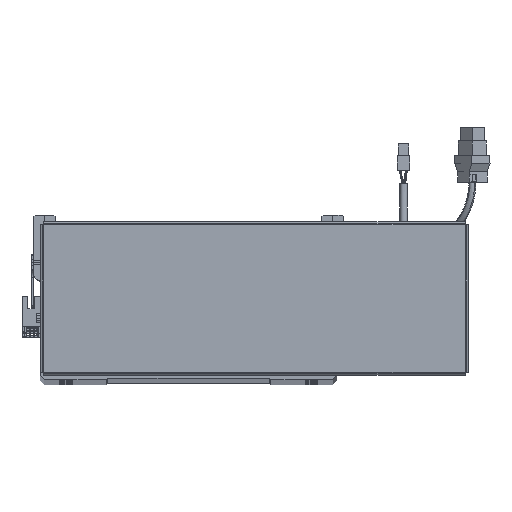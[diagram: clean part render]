
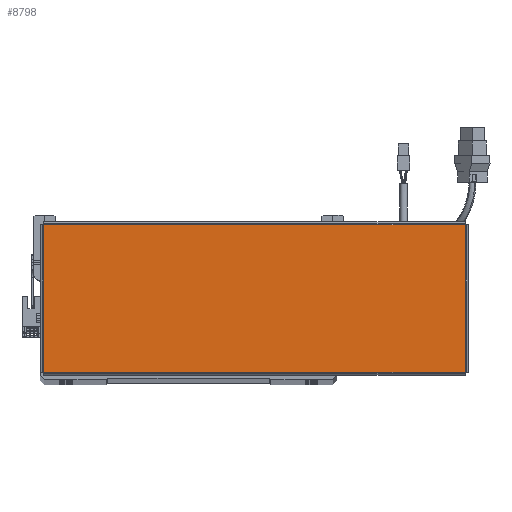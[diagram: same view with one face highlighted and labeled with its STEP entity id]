
A CAD part, top view. The second image highlights one B-rep face of the part: STEP entity #8798.
In plain terms, the highlighted planar face has unit normal (0, 0, 1).
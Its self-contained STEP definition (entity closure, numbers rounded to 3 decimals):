
#2911 = DIRECTION ( 'NONE',  ( 0., 0., 1. ) ) ;
#3141 = EDGE_CURVE ( 'NONE', #38547, #18858, #8806, .T. ) ;
#3435 = DIRECTION ( 'NONE',  ( 1., 0., 0. ) ) ;
#5427 = EDGE_CURVE ( 'NONE', #18858, #20184, #32853, .T. ) ;
#5704 = DIRECTION ( 'NONE',  ( 1., 0., 0. ) ) ;
#8077 = EDGE_CURVE ( 'NONE', #20184, #31802, #13848, .T. ) ;
#8798 = ADVANCED_FACE ( 'NONE', ( #36038 ), #27395, .T. ) ;
#8806 = LINE ( 'NONE', #23414, #47935 ) ;
#10076 = ORIENTED_EDGE ( 'NONE', *, *, #8077, .T. ) ;
#10411 = EDGE_CURVE ( 'NONE', #31802, #38547, #25590, .T. ) ;
#13306 = DIRECTION ( 'NONE',  ( -1., 0., 0. ) ) ;
#13848 = LINE ( 'NONE', #74707, #46479 ) ;
#16840 = CARTESIAN_POINT ( 'NONE',  ( -156.513, -54.763, 0. ) ) ;
#18858 = VERTEX_POINT ( 'NONE', #72367 ) ;
#20184 = VERTEX_POINT ( 'NONE', #60956 ) ;
#20407 = DIRECTION ( 'NONE',  ( 0., -1., 0. ) ) ;
#23414 = CARTESIAN_POINT ( 'NONE',  ( -156.543, -54.763, 0. ) ) ;
#24784 = ORIENTED_EDGE ( 'NONE', *, *, #5427, .T. ) ;
#25590 = LINE ( 'NONE', #27408, #44176 ) ;
#27395 = PLANE ( 'NONE',  #56033 ) ;
#27408 = CARTESIAN_POINT ( 'NONE',  ( -156.513, 54.793, 0. ) ) ;
#31802 = VERTEX_POINT ( 'NONE', #36263 ) ;
#32853 = LINE ( 'NONE', #71344, #40338 ) ;
#36038 = FACE_OUTER_BOUND ( 'NONE', #47473, .T. ) ;
#36263 = CARTESIAN_POINT ( 'NONE',  ( -156.513, 54.763, 0. ) ) ;
#38547 = VERTEX_POINT ( 'NONE', #16840 ) ;
#39097 = CARTESIAN_POINT ( 'NONE',  ( 0., 0., 0. ) ) ;
#40338 = VECTOR ( 'NONE', #66408, 1000. ) ;
#44176 = VECTOR ( 'NONE', #20407, 1000. ) ;
#46479 = VECTOR ( 'NONE', #13306, 1000. ) ;
#47473 = EDGE_LOOP ( 'NONE', ( #61716, #24784, #10076, #53544 ) ) ;
#47935 = VECTOR ( 'NONE', #5704, 1000. ) ;
#53544 = ORIENTED_EDGE ( 'NONE', *, *, #10411, .T. ) ;
#56033 = AXIS2_PLACEMENT_3D ( 'NONE', #39097, #2911, #3435 ) ;
#60956 = CARTESIAN_POINT ( 'NONE',  ( 156.513, 54.763, 0. ) ) ;
#61716 = ORIENTED_EDGE ( 'NONE', *, *, #3141, .T. ) ;
#66408 = DIRECTION ( 'NONE',  ( 0., 1., 0. ) ) ;
#71344 = CARTESIAN_POINT ( 'NONE',  ( 156.513, -54.793, 0. ) ) ;
#72367 = CARTESIAN_POINT ( 'NONE',  ( 156.513, -54.763, 0. ) ) ;
#74707 = CARTESIAN_POINT ( 'NONE',  ( 156.543, 54.763, 0. ) ) ;
